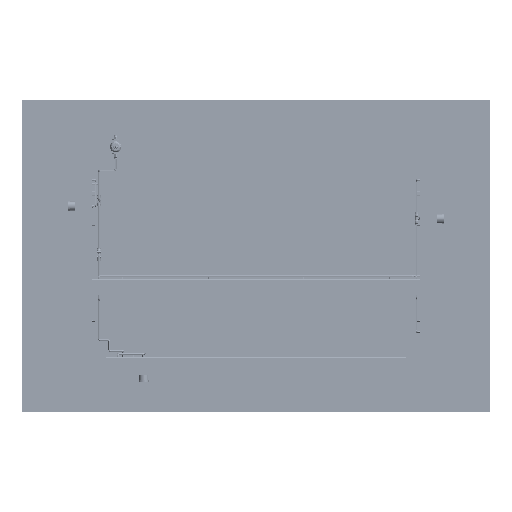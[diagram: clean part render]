
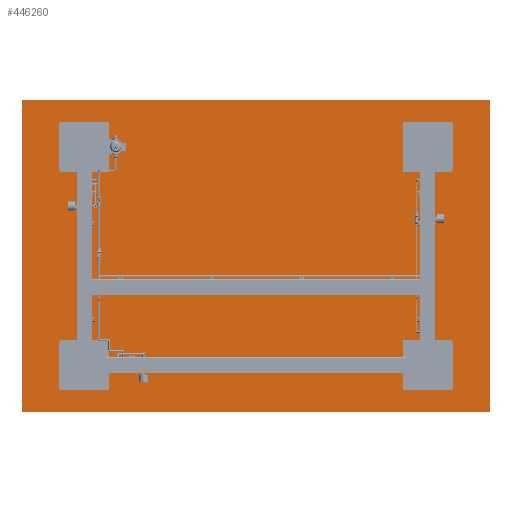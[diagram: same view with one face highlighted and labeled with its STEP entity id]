
A CAD part, front view. The second image highlights one B-rep face of the part: STEP entity #446260.
In plain terms, the highlighted planar face has unit normal (0, -1, 0).
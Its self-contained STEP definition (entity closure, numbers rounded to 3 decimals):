
#1040 = CARTESIAN_POINT ( 'NONE',  ( -745., 600., -500. ) ) ;
#5550 = VERTEX_POINT ( 'NONE', #65391 ) ;
#14801 = DIRECTION ( 'NONE',  ( 0., 0., 1. ) ) ;
#20557 = VERTEX_POINT ( 'NONE', #206532 ) ;
#21879 = DIRECTION ( 'NONE',  ( 0., 1., 0. ) ) ;
#29692 = LINE ( 'NONE', #1040, #214851 ) ;
#31571 = CIRCLE ( 'NONE', #173398, 5. ) ;
#36034 = LINE ( 'NONE', #284461, #395713 ) ;
#36062 = DIRECTION ( 'NONE',  ( -1., 0., 0. ) ) ;
#37359 = VERTEX_POINT ( 'NONE', #282808 ) ;
#43911 = EDGE_LOOP ( 'NONE', ( #434918, #374435, #318492, #102141, #359109, #133096, #197452, #209859 ) ) ;
#65391 = CARTESIAN_POINT ( 'NONE',  ( 745., 600., 500. ) ) ;
#72382 = CARTESIAN_POINT ( 'NONE',  ( 750., 600., -495. ) ) ;
#75925 = LINE ( 'NONE', #217483, #250206 ) ;
#75949 = DIRECTION ( 'NONE',  ( 0., 0., -1. ) ) ;
#102141 = ORIENTED_EDGE ( 'NONE', *, *, #365293, .F. ) ;
#114148 = DIRECTION ( 'NONE',  ( 0., 1., 0. ) ) ;
#131250 = CARTESIAN_POINT ( 'NONE',  ( -745., 600., -495. ) ) ;
#133096 = ORIENTED_EDGE ( 'NONE', *, *, #222767, .F. ) ;
#138001 = VERTEX_POINT ( 'NONE', #188541 ) ;
#151526 = CARTESIAN_POINT ( 'NONE',  ( 745., 600., 495. ) ) ;
#154197 = CARTESIAN_POINT ( 'NONE',  ( 745., 600., -495. ) ) ;
#166347 = DIRECTION ( 'NONE',  ( -1., 0., 0. ) ) ;
#169611 = VERTEX_POINT ( 'NONE', #314812 ) ;
#172496 = VERTEX_POINT ( 'NONE', #242115 ) ;
#172755 = CIRCLE ( 'NONE', #399174, 5. ) ;
#173398 = AXIS2_PLACEMENT_3D ( 'NONE', #230377, #21879, #265388 ) ;
#174131 = VERTEX_POINT ( 'NONE', #261818 ) ;
#183161 = EDGE_CURVE ( 'NONE', #172496, #20557, #29692, .T. ) ;
#186712 = DIRECTION ( 'NONE',  ( 1., 0., 0. ) ) ;
#188401 = EDGE_CURVE ( 'NONE', #37359, #169611, #31571, .T. ) ;
#188541 = CARTESIAN_POINT ( 'NONE',  ( -750., 600., -495. ) ) ;
#189387 = DIRECTION ( 'NONE',  ( -1., 0., 0. ) ) ;
#197452 = ORIENTED_EDGE ( 'NONE', *, *, #198160, .F. ) ;
#198160 = EDGE_CURVE ( 'NONE', #20557, #138001, #439884, .T. ) ;
#206532 = CARTESIAN_POINT ( 'NONE',  ( -745., 600., -500. ) ) ;
#209859 = ORIENTED_EDGE ( 'NONE', *, *, #183161, .F. ) ;
#214851 = VECTOR ( 'NONE', #36062, 1000. ) ;
#217483 = CARTESIAN_POINT ( 'NONE',  ( -745., 600., 500. ) ) ;
#222767 = EDGE_CURVE ( 'NONE', #138001, #37359, #413897, .T. ) ;
#226068 = FACE_OUTER_BOUND ( 'NONE', #43911, .T. ) ;
#228615 = VECTOR ( 'NONE', #14801, 1000. ) ;
#230377 = CARTESIAN_POINT ( 'NONE',  ( -745., 600., 495. ) ) ;
#242115 = CARTESIAN_POINT ( 'NONE',  ( 745., 600., -500. ) ) ;
#250206 = VECTOR ( 'NONE', #322521, 1000. ) ;
#258350 = CARTESIAN_POINT ( 'NONE',  ( -750., 600., 495. ) ) ;
#261818 = CARTESIAN_POINT ( 'NONE',  ( 750., 600., 495. ) ) ;
#265388 = DIRECTION ( 'NONE',  ( -1., 0., 0. ) ) ;
#274892 = AXIS2_PLACEMENT_3D ( 'NONE', #322721, #114148, #357848 ) ;
#282808 = CARTESIAN_POINT ( 'NONE',  ( -750., 600., 495. ) ) ;
#284461 = CARTESIAN_POINT ( 'NONE',  ( 750., 600., 495. ) ) ;
#304979 = VERTEX_POINT ( 'NONE', #72382 ) ;
#305136 = CIRCLE ( 'NONE', #274892, 5. ) ;
#314812 = CARTESIAN_POINT ( 'NONE',  ( -745., 600., 500. ) ) ;
#318492 = ORIENTED_EDGE ( 'NONE', *, *, #338131, .F. ) ;
#322521 = DIRECTION ( 'NONE',  ( 1., 0., 0. ) ) ;
#322721 = CARTESIAN_POINT ( 'NONE',  ( 745., 600., -495. ) ) ;
#324765 = EDGE_CURVE ( 'NONE', #174131, #304979, #36034, .T. ) ;
#338131 = EDGE_CURVE ( 'NONE', #5550, #174131, #172755, .T. ) ;
#357848 = DIRECTION ( 'NONE',  ( -1., 0., 0. ) ) ;
#359109 = ORIENTED_EDGE ( 'NONE', *, *, #188401, .F. ) ;
#362981 = PLANE ( 'NONE',  #370085 ) ;
#365293 = EDGE_CURVE ( 'NONE', #169611, #5550, #75925, .T. ) ;
#370085 = AXIS2_PLACEMENT_3D ( 'NONE', #154197, #398029, #189387 ) ;
#374435 = ORIENTED_EDGE ( 'NONE', *, *, #324765, .F. ) ;
#374988 = DIRECTION ( 'NONE',  ( 0., 1., 0. ) ) ;
#395323 = DIRECTION ( 'NONE',  ( 0., 1., 0. ) ) ;
#395713 = VECTOR ( 'NONE', #75949, 1000. ) ;
#398029 = DIRECTION ( 'NONE',  ( 0., -1., 0. ) ) ;
#399174 = AXIS2_PLACEMENT_3D ( 'NONE', #151526, #395323, #186712 ) ;
#413897 = LINE ( 'NONE', #258350, #228615 ) ;
#420862 = EDGE_CURVE ( 'NONE', #304979, #172496, #305136, .T. ) ;
#433569 = AXIS2_PLACEMENT_3D ( 'NONE', #131250, #374988, #166347 ) ;
#434918 = ORIENTED_EDGE ( 'NONE', *, *, #420862, .F. ) ;
#439884 = CIRCLE ( 'NONE', #433569, 5. ) ;
#446260 = ADVANCED_FACE ( 'NONE', ( #226068 ), #362981, .T. ) ;
